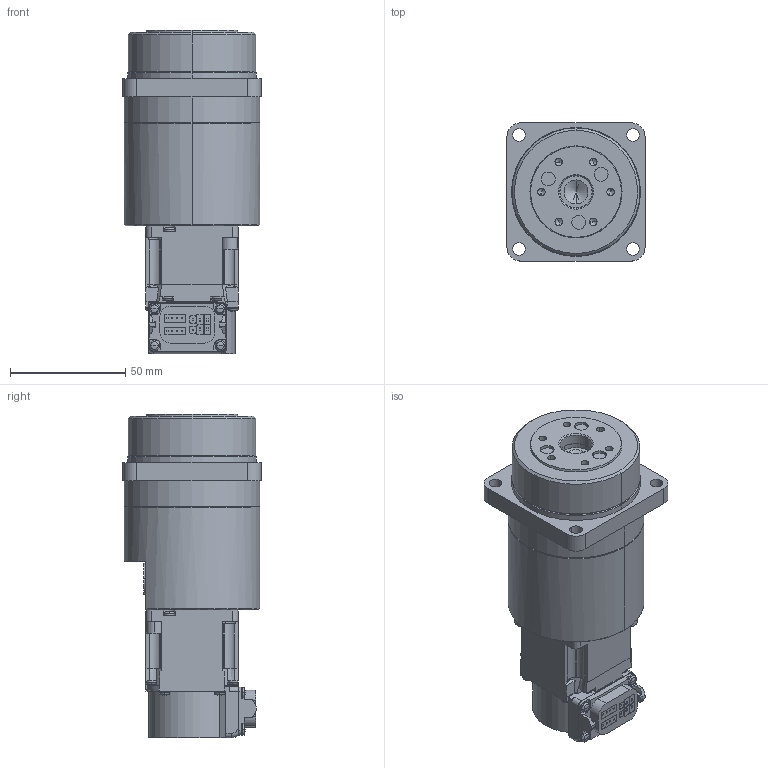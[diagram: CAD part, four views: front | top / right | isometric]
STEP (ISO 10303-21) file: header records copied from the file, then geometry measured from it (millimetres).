
FILE_DESCRIPTION((''),'2;1');
FILE_NAME('BC70041_HK-KT053WG5-14A-33','2019-06-20T',('pc0000'),(''),'CREO PARAMETRIC BY PTC INC, 2018220','CREO PARAMETRIC BY PTC INC, 2018220','');
FILE_SCHEMA(('CONFIG_CONTROL_DESIGN'));
Length unit declared in the file: millimetre
Products named in the file (1): BC70041_HK-KT053WG5-14A-33
Bounding box: 60 x 60 x 140.5 mm (x, y, z)
Volume: 302620.1 mm3; surface area: 34695.1 mm2
Topology: 1 solids, 1 shells, 577 faces, 1481 edges, 921 vertices
Faces by surface type: plane 286, cylinder 183, torus 34, sphere 32, cone 30, bspline 12
Entity records: 17582 total; most frequent: CARTESIAN_POINT 3404, DIRECTION 3052, ORIENTED_EDGE 2870, EDGE_CURVE 1435, AXIS2_PLACEMENT_3D 1079, VERTEX_POINT 921, VECTOR 894, LINE 894
